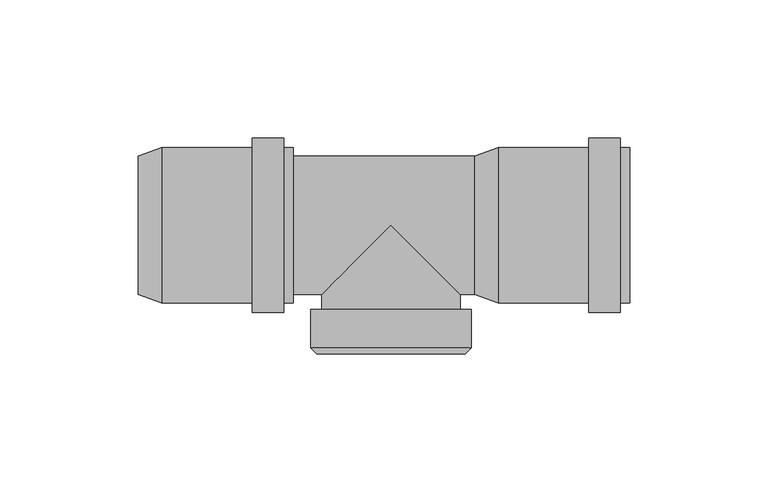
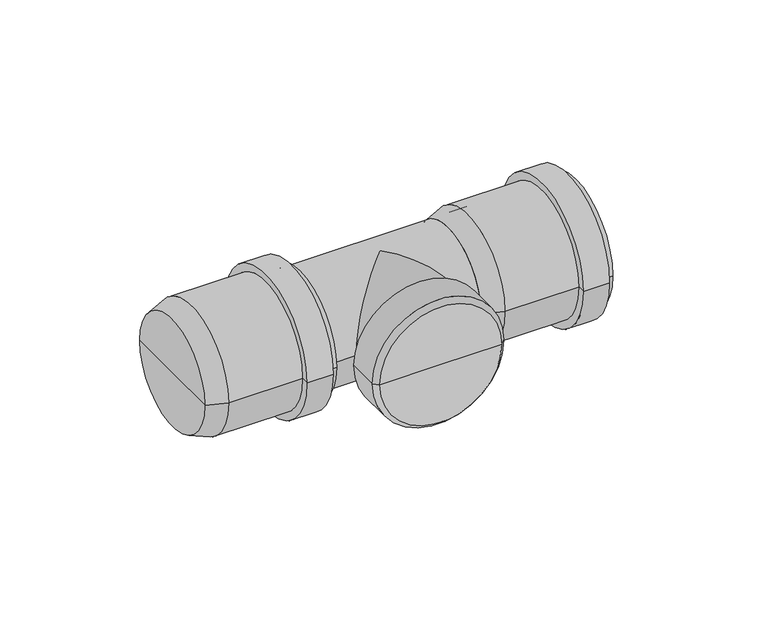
"""IFC4 building model written with IfcOpenShell, lengths in millimetres: pipe fitting geometry, pf_HTRE : pf_HTRE."""

from ifc_helpers import new_model, si_unit, frame, origin, place, context, project, spatial, polyline, circle_curve, ellipse_curve, source, transform, mapped, element, save
from ifc_brep_helpers import plane_surface, cylinder_surface, revolved_surface, advanced_brep


def pipe_fitting_b09aef8b(model_context):
    return source(origin(), model_context, "Body", "AdvancedBrep", [
        advanced_brep(
        [(30.3, -25.0, 0.0), (30.3, 25.0, 0.0), (38.8, 28.1, 0.0), (38.8, -28.1, 0.0), (30.3, 0.0, 0.0), (86.3, -28.1, 0.0), (86.3, 28.1, 0.0), (86.3, 25.0, 0.0), (86.3, -25.0, 0.0), (82.9, -28.1, 0.0), (82.9, 28.1, 0.0), (82.9, -31.5, 0.0), (82.9, 31.5, 0.0), (71.5, -31.5, 0.0), (71.5, 31.5, 0.0), (71.5, -28.1, 0.0), (71.5, 28.1, 0.0), (38.8, -25.0, 0.0), (38.8, 25.0, 0.0), (38.8, 0.0, 0.0)],
        [
            (0, 1, circle_curve(frame((30.3, 0.0, 0.0), z_axis=(1.0, 0.0, 0.0), x_axis=(0.0, 1.0, 0.0)), 25.0)),
            (1, 2),
            (2, 3, circle_curve(frame((38.8, 0.0, 0.0), z_axis=(-1.0, 0.0, 0.0), x_axis=(0.0, 1.0, 0.0)), 28.1)),
            (3, 0),
            (1, 0, circle_curve(frame((30.3, 0.0, 0.0), z_axis=(1.0, 0.0, 0.0), x_axis=(0.0, 1.0, 0.0)), 25.0)),
            (3, 2, circle_curve(frame((38.8, 0.0, 0.0), z_axis=(-1.0, 0.0, 0.0), x_axis=(0.0, 1.0, 0.0)), 28.1)),
            (4, 1),
            (0, 4),
            (5, 6, circle_curve(frame((86.3, 0.0, 0.0), z_axis=(1.0, 0.0, 0.0), x_axis=(0.0, 1.0, 0.0)), 28.1)),
            (6, 7),
            (7, 8, circle_curve(frame((86.3, 0.0, 0.0), z_axis=(-1.0, 0.0, 0.0), x_axis=(0.0, 1.0, 0.0)), 25.0)),
            (8, 5),
            (6, 5, circle_curve(frame((86.3, 0.0, 0.0), z_axis=(1.0, 0.0, 0.0), x_axis=(0.0, 1.0, 0.0)), 28.1)),
            (8, 7, circle_curve(frame((86.3, 0.0, 0.0), z_axis=(-1.0, 0.0, 0.0), x_axis=(0.0, 1.0, 0.0)), 25.0)),
            (9, 10, circle_curve(frame((82.9, 0.0, 0.0), z_axis=(1.0, 0.0, 0.0), x_axis=(0.0, 1.0, 0.0)), 28.1)),
            (10, 6),
            (5, 9),
            (10, 9, circle_curve(frame((82.9, 0.0, 0.0), z_axis=(1.0, 0.0, 0.0), x_axis=(0.0, 1.0, 0.0)), 28.1)),
            (11, 12, circle_curve(frame((82.9, 0.0, 0.0), z_axis=(1.0, 0.0, 0.0), x_axis=(0.0, 1.0, 0.0)), 31.5)),
            (12, 10),
            (9, 11),
            (12, 11, circle_curve(frame((82.9, 0.0, 0.0), z_axis=(1.0, 0.0, 0.0), x_axis=(0.0, 1.0, 0.0)), 31.5)),
            (13, 14, circle_curve(frame((71.5, 0.0, 0.0), z_axis=(1.0, 0.0, 0.0), x_axis=(0.0, 1.0, 0.0)), 31.5)),
            (14, 12),
            (11, 13),
            (14, 13, circle_curve(frame((71.5, 0.0, 0.0), z_axis=(1.0, 0.0, 0.0), x_axis=(0.0, 1.0, 0.0)), 31.5)),
            (15, 16, circle_curve(frame((71.5, 0.0, 0.0), z_axis=(1.0, 0.0, 0.0), x_axis=(0.0, 1.0, 0.0)), 28.1)),
            (16, 14),
            (13, 15),
            (16, 15, circle_curve(frame((71.5, 0.0, 0.0), z_axis=(1.0, 0.0, 0.0), x_axis=(0.0, 1.0, 0.0)), 28.1)),
            (2, 16),
            (15, 3),
            (17, 18, circle_curve(frame((38.8, 0.0, 0.0), z_axis=(1.0, 0.0, 0.0), x_axis=(0.0, 1.0, 0.0)), 25.0)),
            (18, 19),
            (19, 17),
            (18, 17, circle_curve(frame((38.8, 0.0, 0.0), z_axis=(1.0, 0.0, 0.0), x_axis=(0.0, 1.0, 0.0)), 25.0)),
            (7, 18),
            (17, 8),
        ],
        [
            revolved_surface(polyline([(38.8, 28.1, 0.0), (30.3, 25.0, 0.0)]), (30.3, 0.0, 0.0), (-1.0, 0.0, 0.0)),
            plane_surface(frame((30.3, 0.0, 0.0), z_axis=(-1.0, 0.0, 0.0), x_axis=(0.0, 1.0, 0.0))),
            plane_surface(frame((86.3, 0.0, 0.0), z_axis=(1.0, 0.0, 0.0), x_axis=(0.0, 1.0, 0.0))),
            cylinder_surface(frame((30.3, 0.0, 0.0), z_axis=(-1.0, 0.0, 0.0), x_axis=(0.0, 1.0, 0.0)), 28.1),
            plane_surface(frame((82.9, 0.0, 0.0), z_axis=(1.0, 0.0, 0.0), x_axis=(0.0, 1.0, 0.0))),
            cylinder_surface(frame((30.3, 0.0, 0.0), z_axis=(-1.0, 0.0, 0.0), x_axis=(0.0, 1.0, 0.0)), 31.5),
            plane_surface(frame((71.5, 0.0, 0.0), z_axis=(-1.0, 0.0, 0.0), x_axis=(0.0, 1.0, 0.0))),
            plane_surface(frame((38.8, 0.0, 0.0), z_axis=(1.0, 0.0, 0.0), x_axis=(0.0, 1.0, 0.0))),
            revolved_surface(polyline([(38.8, 25.0, 0.0), (86.3, 25.0, 0.0)]), (30.3, 0.0, 0.0), (-1.0, 0.0, 0.0)),
        ],
        [
            (0, [[1, 2, 3, 4]]),
            (0, [[5, -4, 6, -2]]),
            (1, [[7, -1, 8]]),
            (1, [[-8, -5, -7]]),
            (2, [[9, 10, 11, 12]]),
            (2, [[13, -12, 14, -10]]),
            (3, [[15, 16, -9, 17]]),
            (3, [[18, -17, -13, -16]]),
            (4, [[19, 20, -15, 21]]),
            (4, [[22, -21, -18, -20]]),
            (5, [[23, 24, -19, 25]]),
            (5, [[26, -25, -22, -24]]),
            (6, [[27, 28, -23, 29]]),
            (6, [[30, -29, -26, -28]]),
            (3, [[-3, 31, -27, 32]]),
            (3, [[-6, -32, -30, -31]]),
            (7, [[33, 34, 35]]),
            (7, [[36, -35, -34]]),
            (8, [[-11, 37, -33, 38]]),
            (8, [[-14, -38, -36, -37]]),
        ],
    ),
        advanced_brep(
        [(-91.3, -25.0, 0.0), (-91.3, 25.0, 0.0), (-82.8, 28.1, 0.0), (-82.8, -28.1, 0.0), (-91.3, 0.0, 0.0), (-35.3, -28.1, 0.0), (-35.3, 28.1, 0.0), (-35.3, 25.0, 0.0), (-35.3, -25.0, 0.0), (-38.7, -28.1, 0.0), (-38.7, 28.1, 0.0), (-38.7, -31.5, 0.0), (-38.7, 31.5, 0.0), (-50.1, -31.5, 0.0), (-50.1, 31.5, 0.0), (-50.1, -28.1, 0.0), (-50.1, 28.1, 0.0), (-82.8, -25.0, 0.0), (-82.8, 25.0, 0.0), (-82.8, 0.0, 0.0)],
        [
            (0, 1, circle_curve(frame((-91.3, 0.0, 0.0), z_axis=(1.0, 0.0, 0.0), x_axis=(0.0, 1.0, 0.0)), 25.0)),
            (1, 2),
            (2, 3, circle_curve(frame((-82.8, 0.0, 0.0), z_axis=(-1.0, 0.0, 0.0), x_axis=(0.0, 1.0, 0.0)), 28.1)),
            (3, 0),
            (1, 0, circle_curve(frame((-91.3, 0.0, 0.0), z_axis=(1.0, 0.0, 0.0), x_axis=(0.0, 1.0, 0.0)), 25.0)),
            (3, 2, circle_curve(frame((-82.8, 0.0, 0.0), z_axis=(-1.0, 0.0, 0.0), x_axis=(0.0, 1.0, 0.0)), 28.1)),
            (4, 1),
            (0, 4),
            (5, 6, circle_curve(frame((-35.3, 0.0, 0.0), z_axis=(1.0, 0.0, 0.0), x_axis=(0.0, 1.0, 0.0)), 28.1)),
            (6, 7),
            (7, 8, circle_curve(frame((-35.3, 0.0, 0.0), z_axis=(-1.0, 0.0, 0.0), x_axis=(0.0, 1.0, 0.0)), 25.0)),
            (8, 5),
            (6, 5, circle_curve(frame((-35.3, 0.0, 0.0), z_axis=(1.0, 0.0, 0.0), x_axis=(0.0, 1.0, 0.0)), 28.1)),
            (8, 7, circle_curve(frame((-35.3, 0.0, 0.0), z_axis=(-1.0, 0.0, 0.0), x_axis=(0.0, 1.0, 0.0)), 25.0)),
            (9, 10, circle_curve(frame((-38.7, 0.0, 0.0), z_axis=(1.0, 0.0, 0.0), x_axis=(0.0, 1.0, 0.0)), 28.1)),
            (10, 6),
            (5, 9),
            (10, 9, circle_curve(frame((-38.7, 0.0, 0.0), z_axis=(1.0, 0.0, 0.0), x_axis=(0.0, 1.0, 0.0)), 28.1)),
            (11, 12, circle_curve(frame((-38.7, 0.0, 0.0), z_axis=(1.0, 0.0, 0.0), x_axis=(0.0, 1.0, 0.0)), 31.5)),
            (12, 10),
            (9, 11),
            (12, 11, circle_curve(frame((-38.7, 0.0, 0.0), z_axis=(1.0, 0.0, 0.0), x_axis=(0.0, 1.0, 0.0)), 31.5)),
            (13, 14, circle_curve(frame((-50.1, 0.0, 0.0), z_axis=(1.0, 0.0, 0.0), x_axis=(0.0, 1.0, 0.0)), 31.5)),
            (14, 12),
            (11, 13),
            (14, 13, circle_curve(frame((-50.1, 0.0, 0.0), z_axis=(1.0, 0.0, 0.0), x_axis=(0.0, 1.0, 0.0)), 31.5)),
            (15, 16, circle_curve(frame((-50.1, 0.0, 0.0), z_axis=(1.0, 0.0, 0.0), x_axis=(0.0, 1.0, 0.0)), 28.1)),
            (16, 14),
            (13, 15),
            (16, 15, circle_curve(frame((-50.1, 0.0, 0.0), z_axis=(1.0, 0.0, 0.0), x_axis=(0.0, 1.0, 0.0)), 28.1)),
            (2, 16),
            (15, 3),
            (17, 18, circle_curve(frame((-82.8, 0.0, 0.0), z_axis=(1.0, 0.0, 0.0), x_axis=(0.0, 1.0, 0.0)), 25.0)),
            (18, 19),
            (19, 17),
            (18, 17, circle_curve(frame((-82.8, 0.0, 0.0), z_axis=(1.0, 0.0, 0.0), x_axis=(0.0, 1.0, 0.0)), 25.0)),
            (7, 18),
            (17, 8),
        ],
        [
            revolved_surface(polyline([(-82.8, 28.1, 0.0), (-91.3, 25.0, 0.0)]), (-91.3, 0.0, 0.0), (-1.0, 0.0, 0.0)),
            plane_surface(frame((-91.3, 0.0, 0.0), z_axis=(-1.0, 0.0, 0.0), x_axis=(0.0, 1.0, 0.0))),
            plane_surface(frame((-35.3, 0.0, 0.0), z_axis=(1.0, 0.0, 0.0), x_axis=(0.0, 1.0, 0.0))),
            cylinder_surface(frame((-91.3, 0.0, 0.0), z_axis=(-1.0, 0.0, 0.0), x_axis=(0.0, 1.0, 0.0)), 28.1),
            plane_surface(frame((-38.7, 0.0, 0.0), z_axis=(1.0, 0.0, 0.0), x_axis=(0.0, 1.0, 0.0))),
            cylinder_surface(frame((-91.3, 0.0, 0.0), z_axis=(-1.0, 0.0, 0.0), x_axis=(0.0, 1.0, 0.0)), 31.5),
            plane_surface(frame((-50.1, 0.0, 0.0), z_axis=(-1.0, 0.0, 0.0), x_axis=(0.0, 1.0, 0.0))),
            plane_surface(frame((-82.8, 0.0, 0.0), z_axis=(1.0, 0.0, 0.0), x_axis=(0.0, 1.0, 0.0))),
            revolved_surface(polyline([(-82.8, 25.0, 0.0), (-35.3, 25.0, 0.0)]), (-91.3, 0.0, 0.0), (-1.0, 0.0, 0.0)),
        ],
        [
            (0, [[1, 2, 3, 4]]),
            (0, [[5, -4, 6, -2]]),
            (1, [[7, -1, 8]]),
            (1, [[-8, -5, -7]]),
            (2, [[9, 10, 11, 12]]),
            (2, [[13, -12, 14, -10]]),
            (3, [[15, 16, -9, 17]]),
            (3, [[18, -17, -13, -16]]),
            (4, [[19, 20, -15, 21]]),
            (4, [[22, -21, -18, -20]]),
            (5, [[23, 24, -19, 25]]),
            (5, [[26, -25, -22, -24]]),
            (6, [[27, 28, -23, 29]]),
            (6, [[30, -29, -26, -28]]),
            (3, [[-3, 31, -27, 32]]),
            (3, [[-6, -32, -30, -31]]),
            (7, [[33, 34, 35]]),
            (7, [[36, -35, -34]]),
            (8, [[-11, 37, -33, 38]]),
            (8, [[-14, -38, -36, -37]]),
        ],
    ),
        advanced_brep(
        [(0.0, -42.0, 0.0), (25.0, -42.0, 0.0), (-25.0, -42.0, 0.0), (-26.8547233, -46.4866797, 0.0), (26.8547233, -46.4866797, 0.0), (0.0, -46.4866797, 0.0), (-29.0, -44.341403, 0.0), (29.0, -44.341403, 0.0), (-29.0, -30.41835, 0.0), (29.0, -30.41835, 0.0), (-25.0, -30.41835, 0.0), (25.0, -30.41835, 0.0)],
        [
            (0, 1),
            (1, 2, circle_curve(frame((0.0, -42.0, 0.0), z_axis=(0.0, 1.0, 0.0), x_axis=(1.0, 0.0, 0.0)), 25.0)),
            (2, 0),
            (2, 1, circle_curve(frame((0.0, -42.0, 0.0), z_axis=(0.0, 1.0, 0.0), x_axis=(1.0, 0.0, 0.0)), 25.0)),
            (3, 4, circle_curve(frame((0.0, -46.4866797, 0.0), z_axis=(0.0, -1.0, 0.0), x_axis=(1.0, 0.0, 0.0)), 26.8547233)),
            (4, 5),
            (5, 3),
            (4, 3, circle_curve(frame((0.0, -46.4866797, 0.0), z_axis=(0.0, -1.0, 0.0), x_axis=(1.0, 0.0, 0.0)), 26.8547233)),
            (6, 7, circle_curve(frame((0.0, -44.341403, 0.0), z_axis=(0.0, -1.0, 0.0), x_axis=(1.0, 0.0, 0.0)), 29.0)),
            (7, 4),
            (3, 6),
            (7, 6, circle_curve(frame((0.0, -44.341403, 0.0), z_axis=(0.0, -1.0, 0.0), x_axis=(1.0, 0.0, 0.0)), 29.0)),
            (8, 9, circle_curve(frame((0.0, -30.41835, 0.0), z_axis=(0.0, -1.0, 0.0), x_axis=(1.0, 0.0, 0.0)), 29.0)),
            (9, 7),
            (6, 8),
            (9, 8, circle_curve(frame((0.0, -30.41835, 0.0), z_axis=(0.0, -1.0, 0.0), x_axis=(1.0, 0.0, 0.0)), 29.0)),
            (10, 11, circle_curve(frame((0.0, -30.41835, 0.0), z_axis=(0.0, -1.0, 0.0), x_axis=(1.0, 0.0, 0.0)), 25.0)),
            (11, 9),
            (8, 10),
            (11, 10, circle_curve(frame((0.0, -30.41835, 0.0), z_axis=(0.0, -1.0, 0.0), x_axis=(1.0, 0.0, 0.0)), 25.0)),
            (1, 11),
            (10, 2),
        ],
        [
            plane_surface(frame((0.0, -42.0, 0.0), z_axis=(0.0, 1.0, 0.0), x_axis=(1.0, 0.0, 0.0))),
            plane_surface(frame((0.0, -46.4866797, 0.0), z_axis=(0.0, -1.0, 0.0), x_axis=(1.0, 0.0, 0.0))),
            revolved_surface(polyline([(26.8547233, -46.4866797, 0.0), (29.0, -44.341403, 0.0)]), (0.0, 0.0, 0.0), (0.0, 1.0, 0.0)),
            cylinder_surface(frame((0.0, 0.0, 0.0), z_axis=(0.0, 1.0, 0.0), x_axis=(1.0, 0.0, 0.0)), 29.0),
            plane_surface(frame((0.0, -30.41835, 0.0), z_axis=(0.0, 1.0, 0.0), x_axis=(1.0, 0.0, 0.0))),
            revolved_surface(polyline([(25.0, -30.41835, 0.0), (25.0, -42.0, 0.0)]), (0.0, 0.0, 0.0), (0.0, 1.0, 0.0)),
        ],
        [
            (0, [[1, 2, 3]]),
            (0, [[-3, 4, -1]]),
            (1, [[5, 6, 7]]),
            (1, [[8, -7, -6]]),
            (2, [[9, 10, -5, 11]]),
            (2, [[12, -11, -8, -10]]),
            (3, [[13, 14, -9, 15]]),
            (3, [[16, -15, -12, -14]]),
            (4, [[17, 18, -13, 19]]),
            (4, [[20, -19, -16, -18]]),
            (5, [[-2, 21, -17, 22]]),
            (5, [[-4, -22, -20, -21]]),
        ],
    ),
        advanced_brep(
        [(-35.3, -25.0, 0.0), (-35.3, 25.0, 0.0), (30.3, -25.0, 0.0), (30.3, 25.0, 0.0), (-25.0, -25.0, 0.0), (0.0, 0.0, 25.0), (25.0, -25.0, 0.0), (0.0, 0.0, -25.0), (-25.0, -42.0, 0.0), (25.0, -42.0, 0.0)],
        [
            (0, 1, circle_curve(frame((-35.3, 0.0, 0.0), z_axis=(-1.0, 0.0, 0.0), x_axis=(0.0, 1.0, 0.0)), 25.0)),
            (1, 0, circle_curve(frame((-35.3, 0.0, 0.0), z_axis=(-1.0, 0.0, 0.0), x_axis=(0.0, 1.0, 0.0)), 25.0)),
            (2, 3, circle_curve(frame((30.3, 0.0, 0.0), z_axis=(1.0, 0.0, 0.0), x_axis=(0.0, 1.0, 0.0)), 25.0)),
            (3, 2, circle_curve(frame((30.3, 0.0, 0.0), z_axis=(1.0, 0.0, 0.0), x_axis=(0.0, 1.0, 0.0)), 25.0)),
            (0, 4),
            (4, 5, ellipse_curve(frame((0.0, 0.0, 0.0), z_axis=(-0.7071067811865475, 0.7071067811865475, 0.0), x_axis=(-0.7071067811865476, -0.7071067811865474, 0.0)), 35.3553391, 25.0)),
            (5, 6, ellipse_curve(frame((0.0, 0.0, 0.0), z_axis=(0.7071067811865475, 0.7071067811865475, 0.0), x_axis=(-0.7071067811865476, 0.7071067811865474, 0.0)), 35.3553391, 25.0)),
            (6, 2),
            (3, 1),
            (6, 7, ellipse_curve(frame((0.0, 0.0, 0.0), z_axis=(0.7071067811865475, 0.7071067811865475, 0.0), x_axis=(-0.7071067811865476, 0.7071067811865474, 0.0)), 35.3553391, 25.0)),
            (7, 4, ellipse_curve(frame((0.0, 0.0, 0.0), z_axis=(-0.7071067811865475, 0.7071067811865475, 0.0), x_axis=(-0.7071067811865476, -0.7071067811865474, 0.0)), 35.3553391, 25.0)),
            (8, 9, circle_curve(frame((0.0, -42.0, 0.0), z_axis=(0.0, -1.0, 0.0), x_axis=(1.0, 0.0, 0.0)), 25.0)),
            (9, 8, circle_curve(frame((0.0, -42.0, 0.0), z_axis=(0.0, -1.0, 0.0), x_axis=(1.0, 0.0, 0.0)), 25.0)),
            (9, 6),
            (4, 8),
        ],
        [
            plane_surface(frame((-35.3, 0.0, 0.0), z_axis=(-1.0, 0.0, 0.0), x_axis=(0.0, 0.0, 1.0))),
            plane_surface(frame((30.3, 0.0, 0.0), z_axis=(1.0, 0.0, 0.0), x_axis=(0.0, 0.0, 1.0))),
            cylinder_surface(frame((-35.3, 0.0, 0.0), z_axis=(-1.0, 0.0, 0.0), x_axis=(0.0, 1.0, 0.0)), 25.0),
            plane_surface(frame((0.0, -42.0, 0.0), z_axis=(0.0, -1.0, 0.0), x_axis=(0.0, 0.0, 1.0))),
            cylinder_surface(frame((0.0, 0.0, 0.0), z_axis=(0.0, 1.0, 0.0), x_axis=(1.0, 0.0, 0.0)), 25.0),
        ],
        [
            (0, [[1, 2]]),
            (1, [[3, 4]]),
            (2, [[-1, 5, 6, 7, 8, -4, 9]]),
            (2, [[-2, -9, -3, -8, 10, 11, -5]]),
            (3, [[12, 13]]),
            (4, [[-13, 14, -7, -6, 15]]),
            (4, [[-12, -15, -11, -10, -14]]),
        ],
    ),
    ])


if __name__ == "__main__":
    model = new_model("IFC4")
    model_context = context("Model", 3, world=origin())
    ifc_project = project(units=[si_unit("LENGTHUNIT", "METRE", prefix="MILLI")], contexts=[model_context])
    site = spatial("IfcSite", under=ifc_project)
    building = spatial("IfcBuilding", under=site)
    placement = place(None, origin())
    pipe_fitting_shape = pipe_fitting_b09aef8b(model_context)
    element("IfcPipeFitting", 1, ObjectType="pf_HTRE : pf_HTRE", at=placement, inside=building, context=model_context, shape_type="MappedRepresentation", body=[
        mapped(pipe_fitting_shape, transform((0.0, 0.0, 0.0), x_axis=(1.0, 0.0, 0.0), y_axis=(0.0, 1.0, 0.0), z_axis=(0.0, 0.0, 1.0))),
    ])
    save(model, "model.ifc")
